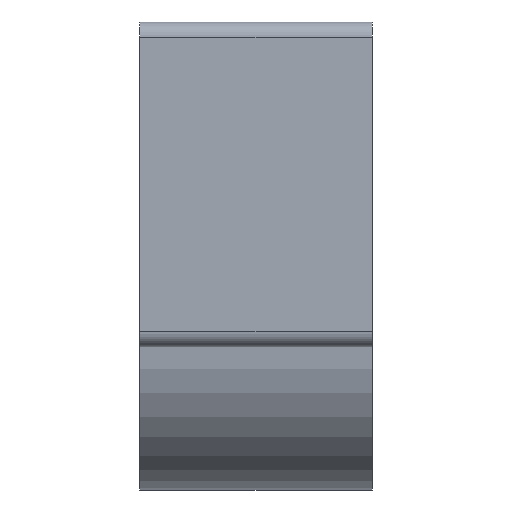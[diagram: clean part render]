
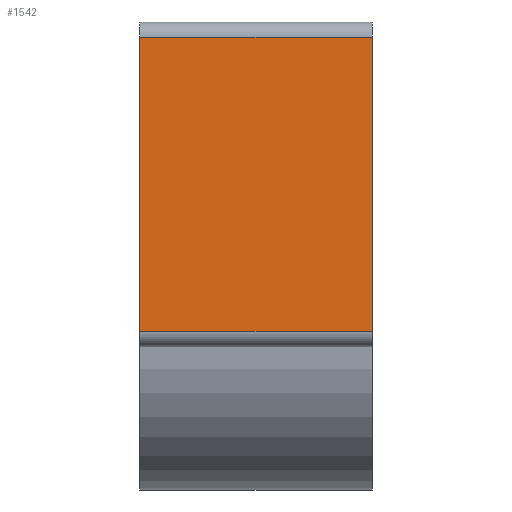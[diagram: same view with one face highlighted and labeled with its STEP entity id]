
A CAD part, front view. The second image highlights one B-rep face of the part: STEP entity #1542.
In plain terms, the highlighted planar face has unit normal (0, -1, 0).
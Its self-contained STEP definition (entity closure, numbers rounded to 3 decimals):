
#301 = PLANE('',#302);
#302 = AXIS2_PLACEMENT_3D('',#303,#304,#305);
#303 = CARTESIAN_POINT('',(13.5,-39.85,-8.2));
#304 = DIRECTION('',(-1.,0.,0.));
#305 = DIRECTION('',(0.,0.,1.));
#326 = VERTEX_POINT('',#327);
#327 = CARTESIAN_POINT('',(13.5,-43.15,-8.05));
#346 = CYLINDRICAL_SURFACE('',#347,0.2);
#347 = AXIS2_PLACEMENT_3D('',#348,#349,#350);
#348 = CARTESIAN_POINT('',(15.,-42.95,-8.05));
#349 = DIRECTION('',(-1.,-0.,-0.));
#350 = DIRECTION('',(0.,-1.,0.));
#357 = EDGE_CURVE('',#358,#326,#360,.T.);
#358 = VERTEX_POINT('',#359);
#359 = CARTESIAN_POINT('',(13.5,-43.15,-4.25));
#360 = SURFACE_CURVE('',#361,(#365,#372),.PCURVE_S1.);
#361 = LINE('',#362,#363);
#362 = CARTESIAN_POINT('',(13.5,-43.15,-4.25));
#363 = VECTOR('',#364,1.);
#364 = DIRECTION('',(0.,0.,-1.));
#365 = PCURVE('',#301,#366);
#366 = DEFINITIONAL_REPRESENTATION('',(#367),#371);
#367 = LINE('',#368,#369);
#368 = CARTESIAN_POINT('',(3.95,-3.3));
#369 = VECTOR('',#370,1.);
#370 = DIRECTION('',(-1.,0.));
#371 = ( GEOMETRIC_REPRESENTATION_CONTEXT(2) 
PARAMETRIC_REPRESENTATION_CONTEXT() REPRESENTATION_CONTEXT('2D SPACE',''
  ) );
#372 = PCURVE('',#373,#378);
#373 = PLANE('',#374);
#374 = AXIS2_PLACEMENT_3D('',#375,#376,#377);
#375 = CARTESIAN_POINT('',(15.,-43.15,-4.25));
#376 = DIRECTION('',(0.,-1.,0.));
#377 = DIRECTION('',(-1.,0.,0.));
#378 = DEFINITIONAL_REPRESENTATION('',(#379),#383);
#379 = LINE('',#380,#381);
#380 = CARTESIAN_POINT('',(1.5,0.));
#381 = VECTOR('',#382,1.);
#382 = DIRECTION('',(0.,1.));
#383 = ( GEOMETRIC_REPRESENTATION_CONTEXT(2) 
PARAMETRIC_REPRESENTATION_CONTEXT() REPRESENTATION_CONTEXT('2D SPACE',''
  ) );
#406 = CYLINDRICAL_SURFACE('',#407,0.2);
#407 = AXIS2_PLACEMENT_3D('',#408,#409,#410);
#408 = CARTESIAN_POINT('',(15.,-42.95,-4.25));
#409 = DIRECTION('',(-1.,-0.,0.));
#410 = DIRECTION('',(0.,0.,1.));
#820 = PLANE('',#821);
#821 = AXIS2_PLACEMENT_3D('',#822,#823,#824);
#822 = CARTESIAN_POINT('',(16.5,-39.85,-8.2));
#823 = DIRECTION('',(1.,-0.,0.));
#824 = DIRECTION('',(0.,0.,-1.));
#1116 = VERTEX_POINT('',#1117);
#1117 = CARTESIAN_POINT('',(16.5,-43.15,-4.25));
#1138 = EDGE_CURVE('',#1116,#1139,#1141,.T.);
#1139 = VERTEX_POINT('',#1140);
#1140 = CARTESIAN_POINT('',(16.5,-43.15,-8.05));
#1141 = SURFACE_CURVE('',#1142,(#1146,#1153),.PCURVE_S1.);
#1142 = LINE('',#1143,#1144);
#1143 = CARTESIAN_POINT('',(16.5,-43.15,-4.25));
#1144 = VECTOR('',#1145,1.);
#1145 = DIRECTION('',(0.,0.,-1.));
#1146 = PCURVE('',#820,#1147);
#1147 = DEFINITIONAL_REPRESENTATION('',(#1148),#1152);
#1148 = LINE('',#1149,#1150);
#1149 = CARTESIAN_POINT('',(-3.95,-3.3));
#1150 = VECTOR('',#1151,1.);
#1151 = DIRECTION('',(1.,0.));
#1152 = ( GEOMETRIC_REPRESENTATION_CONTEXT(2) 
PARAMETRIC_REPRESENTATION_CONTEXT() REPRESENTATION_CONTEXT('2D SPACE',''
  ) );
#1153 = PCURVE('',#373,#1154);
#1154 = DEFINITIONAL_REPRESENTATION('',(#1155),#1159);
#1155 = LINE('',#1156,#1157);
#1156 = CARTESIAN_POINT('',(-1.5,-0.));
#1157 = VECTOR('',#1158,1.);
#1158 = DIRECTION('',(0.,1.));
#1159 = ( GEOMETRIC_REPRESENTATION_CONTEXT(2) 
PARAMETRIC_REPRESENTATION_CONTEXT() REPRESENTATION_CONTEXT('2D SPACE',''
  ) );
#1494 = EDGE_CURVE('',#1116,#358,#1495,.T.);
#1495 = SURFACE_CURVE('',#1496,(#1500,#1507),.PCURVE_S1.);
#1496 = LINE('',#1497,#1498);
#1497 = CARTESIAN_POINT('',(15.,-43.15,-4.25));
#1498 = VECTOR('',#1499,1.);
#1499 = DIRECTION('',(-1.,-0.,0.));
#1500 = PCURVE('',#406,#1501);
#1501 = DEFINITIONAL_REPRESENTATION('',(#1502),#1506);
#1502 = LINE('',#1503,#1504);
#1503 = CARTESIAN_POINT('',(-1.571,0.));
#1504 = VECTOR('',#1505,1.);
#1505 = DIRECTION('',(-0.,1.));
#1506 = ( GEOMETRIC_REPRESENTATION_CONTEXT(2) 
PARAMETRIC_REPRESENTATION_CONTEXT() REPRESENTATION_CONTEXT('2D SPACE',''
  ) );
#1507 = PCURVE('',#373,#1508);
#1508 = DEFINITIONAL_REPRESENTATION('',(#1509),#1513);
#1509 = LINE('',#1510,#1511);
#1510 = CARTESIAN_POINT('',(0.,0.));
#1511 = VECTOR('',#1512,1.);
#1512 = DIRECTION('',(1.,0.));
#1513 = ( GEOMETRIC_REPRESENTATION_CONTEXT(2) 
PARAMETRIC_REPRESENTATION_CONTEXT() REPRESENTATION_CONTEXT('2D SPACE',''
  ) );
#1542 = ADVANCED_FACE('',(#1543),#373,.T.);
#1543 = FACE_BOUND('',#1544,.T.);
#1544 = EDGE_LOOP('',(#1545,#1546,#1547,#1548));
#1545 = ORIENTED_EDGE('',*,*,#1138,.F.);
#1546 = ORIENTED_EDGE('',*,*,#1494,.T.);
#1547 = ORIENTED_EDGE('',*,*,#357,.T.);
#1548 = ORIENTED_EDGE('',*,*,#1549,.F.);
#1549 = EDGE_CURVE('',#1139,#326,#1550,.T.);
#1550 = SURFACE_CURVE('',#1551,(#1555,#1562),.PCURVE_S1.);
#1551 = LINE('',#1552,#1553);
#1552 = CARTESIAN_POINT('',(15.,-43.15,-8.05));
#1553 = VECTOR('',#1554,1.);
#1554 = DIRECTION('',(-1.,0.,0.));
#1555 = PCURVE('',#373,#1556);
#1556 = DEFINITIONAL_REPRESENTATION('',(#1557),#1561);
#1557 = LINE('',#1558,#1559);
#1558 = CARTESIAN_POINT('',(0.,3.8));
#1559 = VECTOR('',#1560,1.);
#1560 = DIRECTION('',(1.,0.));
#1561 = ( GEOMETRIC_REPRESENTATION_CONTEXT(2) 
PARAMETRIC_REPRESENTATION_CONTEXT() REPRESENTATION_CONTEXT('2D SPACE',''
  ) );
#1562 = PCURVE('',#346,#1563);
#1563 = DEFINITIONAL_REPRESENTATION('',(#1564),#1567);
#1564 = B_SPLINE_CURVE_WITH_KNOTS('',1,(#1565,#1566),.UNSPECIFIED.,.F.,
  .F.,(2,2),(-1.5,1.5),.PIECEWISE_BEZIER_KNOTS.);
#1565 = CARTESIAN_POINT('',(0.,-1.5));
#1566 = CARTESIAN_POINT('',(0.,1.5));
#1567 = ( GEOMETRIC_REPRESENTATION_CONTEXT(2) 
PARAMETRIC_REPRESENTATION_CONTEXT() REPRESENTATION_CONTEXT('2D SPACE',''
  ) );
